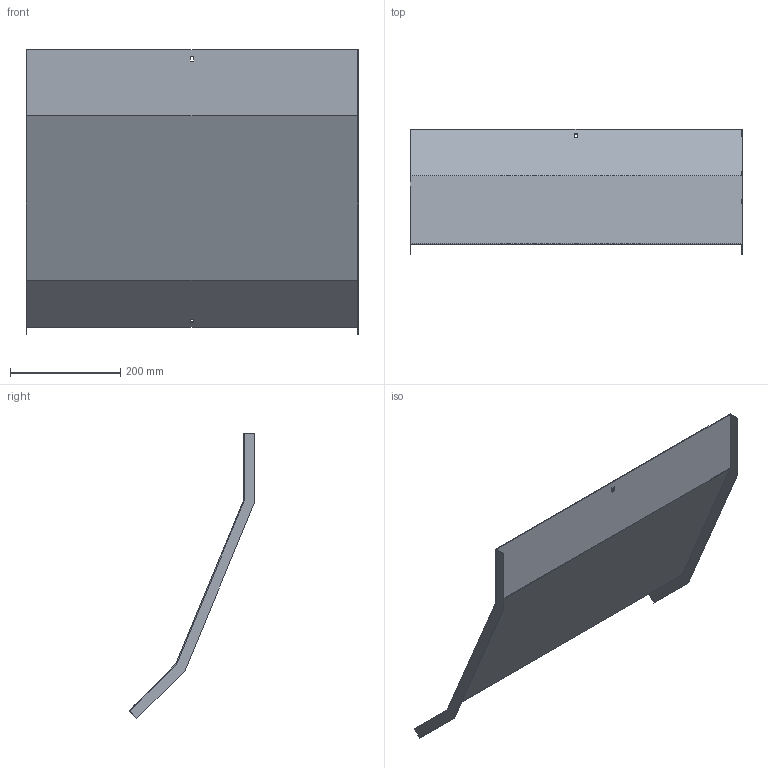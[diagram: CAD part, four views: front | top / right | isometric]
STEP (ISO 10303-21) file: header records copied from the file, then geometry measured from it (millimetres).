
FILE_DESCRIPTION (( 'STEP AP214' ), '1' );
FILE_NAME ('31N5R600_H150.step', '2025-02-21T14:28:46', ( '' ), ( '' ), 'SwSTEP 2.0', 'SolidWorks 2023', '' );
FILE_SCHEMA (( 'AUTOMOTIVE_DESIGN' ));
Length unit declared in the file: millimetre
Products named in the file (1): 31N5R600_H150
Bounding box: 603 x 228.46 x 517.41 mm (x, y, z)
Volume: 541319 mm3; surface area: 725506.6 mm2
Topology: 1 solids, 1 shells, 26 faces, 72 edges, 48 vertices
Faces by surface type: plane 26
Entity records: 847 total; most frequent: CARTESIAN_POINT 147, ORIENTED_EDGE 144, DIRECTION 126, EDGE_CURVE 72, VECTOR 72, LINE 72, VERTEX_POINT 48, EDGE_LOOP 30
